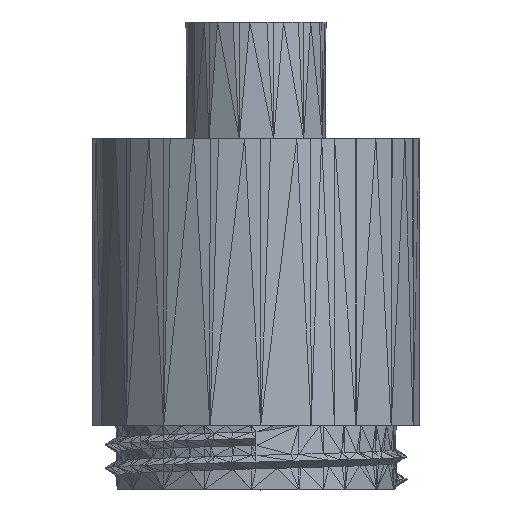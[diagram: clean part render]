
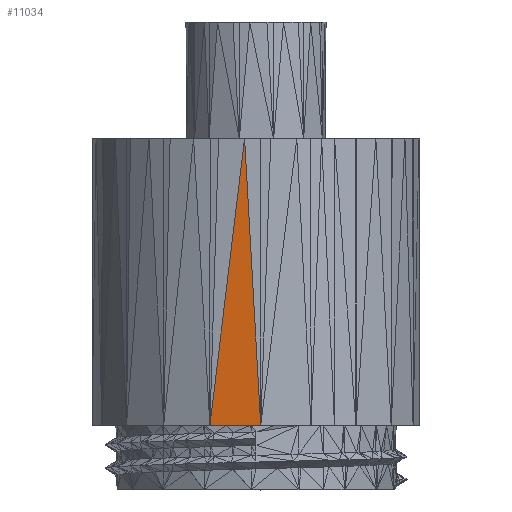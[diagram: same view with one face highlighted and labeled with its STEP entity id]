
A CAD part, top view. The second image highlights one B-rep face of the part: STEP entity #11034.
In plain terms, the highlighted planar face has unit normal (-0.128, -0.006, 0.992).
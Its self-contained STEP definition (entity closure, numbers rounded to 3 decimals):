
#3071 = VERTEX_POINT('',#3072);
#3072 = CARTESIAN_POINT('',(-0.976,79.,13.966));
#3086 = PLANE('',#3087);
#3087 = AXIS2_PLACEMENT_3D('',#3088,#3089,#3090);
#3088 = CARTESIAN_POINT('',(-0.976,79.,13.966));
#3089 = DIRECTION('',(-0.15,-0.003,
    0.989));
#3090 = DIRECTION('',(-0.989,0.,-0.15));
#5319 = PLANE('',#5320);
#5320 = AXIS2_PLACEMENT_3D('',#5321,#5322,#5323);
#5321 = CARTESIAN_POINT('',(0.403,54.5,13.994));
#5322 = DIRECTION('',(0.011,0.002,
    1.));
#5323 = DIRECTION('',(0.,1.,
    -0.002));
#10909 = VERTEX_POINT('',#10910);
#10910 = CARTESIAN_POINT('',(-3.942,54.5,13.434));
#11034 = ADVANCED_FACE('',(#11035),#11047,.T.);
#11035 = FACE_BOUND('',#11036,.T.);
#11036 = EDGE_LOOP('',(#11037,#11070,#11091));
#11037 = ORIENTED_EDGE('',*,*,#11038,.T.);
#11038 = EDGE_CURVE('',#10909,#11039,#11041,.T.);
#11039 = VERTEX_POINT('',#11040);
#11040 = CARTESIAN_POINT('',(0.403,54.5,13.994));
#11041 = SURFACE_CURVE('',#11042,(#11046,#11058),.PCURVE_S1.);
#11042 = LINE('',#11043,#11044);
#11043 = CARTESIAN_POINT('',(-3.942,54.5,13.434));
#11044 = VECTOR('',#11045,1.);
#11045 = DIRECTION('',(0.992,0.,0.128));
#11046 = PCURVE('',#11047,#11052);
#11047 = PLANE('',#11048);
#11048 = AXIS2_PLACEMENT_3D('',#11049,#11050,#11051);
#11049 = CARTESIAN_POINT('',(-3.942,54.5,13.434));
#11050 = DIRECTION('',(-0.128,-0.006,
    0.992));
#11051 = DIRECTION('',(0.992,0.,0.128));
#11052 = DEFINITIONAL_REPRESENTATION('',(#11053),#11057);
#11053 = LINE('',#11054,#11055);
#11054 = CARTESIAN_POINT('',(0.,0.));
#11055 = VECTOR('',#11056,1.);
#11056 = DIRECTION('',(1.,0.));
#11057 = ( GEOMETRIC_REPRESENTATION_CONTEXT(2) 
PARAMETRIC_REPRESENTATION_CONTEXT() REPRESENTATION_CONTEXT('2D SPACE',''
  ) );
#11058 = PCURVE('',#11059,#11064);
#11059 = PLANE('',#11060);
#11060 = AXIS2_PLACEMENT_3D('',#11061,#11062,#11063);
#11061 = CARTESIAN_POINT('',(0.403,54.5,13.994));
#11062 = DIRECTION('',(0.,-1.,0.));
#11063 = DIRECTION('',(-0.992,0.,-0.128));
#11064 = DEFINITIONAL_REPRESENTATION('',(#11065),#11069);
#11065 = LINE('',#11066,#11067);
#11066 = CARTESIAN_POINT('',(4.38,0.));
#11067 = VECTOR('',#11068,1.);
#11068 = DIRECTION('',(-1.,0.));
#11069 = ( GEOMETRIC_REPRESENTATION_CONTEXT(2) 
PARAMETRIC_REPRESENTATION_CONTEXT() REPRESENTATION_CONTEXT('2D SPACE',''
  ) );
#11070 = ORIENTED_EDGE('',*,*,#11071,.T.);
#11071 = EDGE_CURVE('',#11039,#3071,#11072,.T.);
#11072 = SURFACE_CURVE('',#11073,(#11077,#11084),.PCURVE_S1.);
#11073 = LINE('',#11074,#11075);
#11074 = CARTESIAN_POINT('',(0.403,54.5,13.994));
#11075 = VECTOR('',#11076,1.);
#11076 = DIRECTION('',(-0.056,0.998,
    -0.001));
#11077 = PCURVE('',#11047,#11078);
#11078 = DEFINITIONAL_REPRESENTATION('',(#11079),#11083);
#11079 = LINE('',#11080,#11081);
#11080 = CARTESIAN_POINT('',(4.38,0.));
#11081 = VECTOR('',#11082,1.);
#11082 = DIRECTION('',(-0.056,0.998));
#11083 = ( GEOMETRIC_REPRESENTATION_CONTEXT(2) 
PARAMETRIC_REPRESENTATION_CONTEXT() REPRESENTATION_CONTEXT('2D SPACE',''
  ) );
#11084 = PCURVE('',#5319,#11085);
#11085 = DEFINITIONAL_REPRESENTATION('',(#11086),#11090);
#11086 = LINE('',#11087,#11088);
#11087 = CARTESIAN_POINT('',(0.,0.));
#11088 = VECTOR('',#11089,1.);
#11089 = DIRECTION('',(0.998,0.056));
#11090 = ( GEOMETRIC_REPRESENTATION_CONTEXT(2) 
PARAMETRIC_REPRESENTATION_CONTEXT() REPRESENTATION_CONTEXT('2D SPACE',''
  ) );
#11091 = ORIENTED_EDGE('',*,*,#11092,.T.);
#11092 = EDGE_CURVE('',#3071,#10909,#11093,.T.);
#11093 = SURFACE_CURVE('',#11094,(#11098,#11105),.PCURVE_S1.);
#11094 = LINE('',#11095,#11096);
#11095 = CARTESIAN_POINT('',(-0.976,79.,13.966));
#11096 = VECTOR('',#11097,1.);
#11097 = DIRECTION('',(-0.12,-0.993,
    -0.022));
#11098 = PCURVE('',#11047,#11099);
#11099 = DEFINITIONAL_REPRESENTATION('',(#11100),#11104);
#11100 = LINE('',#11101,#11102);
#11101 = CARTESIAN_POINT('',(3.009,24.5));
#11102 = VECTOR('',#11103,1.);
#11103 = DIRECTION('',(-0.122,-0.993));
#11104 = ( GEOMETRIC_REPRESENTATION_CONTEXT(2) 
PARAMETRIC_REPRESENTATION_CONTEXT() REPRESENTATION_CONTEXT('2D SPACE',''
  ) );
#11105 = PCURVE('',#3086,#11106);
#11106 = DEFINITIONAL_REPRESENTATION('',(#11107),#11111);
#11107 = LINE('',#11108,#11109);
#11108 = CARTESIAN_POINT('',(0.,0.));
#11109 = VECTOR('',#11110,1.);
#11110 = DIRECTION('',(0.122,0.993));
#11111 = ( GEOMETRIC_REPRESENTATION_CONTEXT(2) 
PARAMETRIC_REPRESENTATION_CONTEXT() REPRESENTATION_CONTEXT('2D SPACE',''
  ) );
